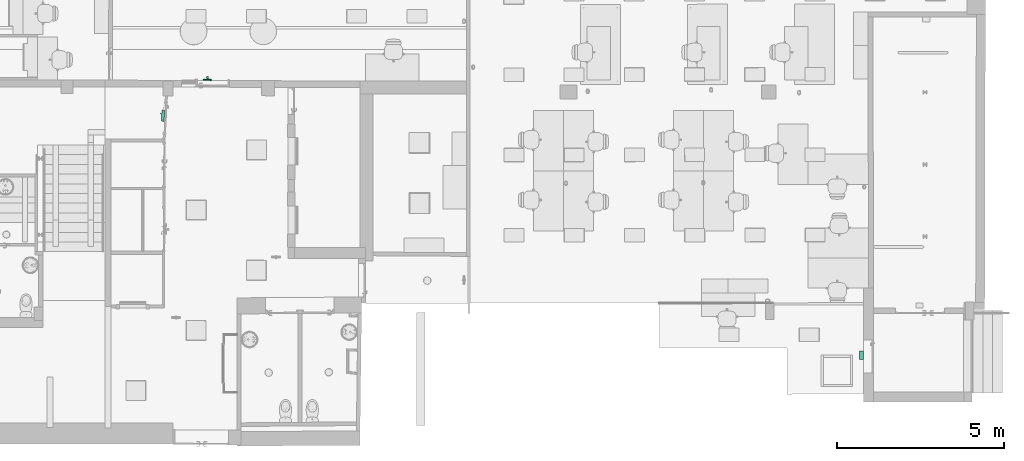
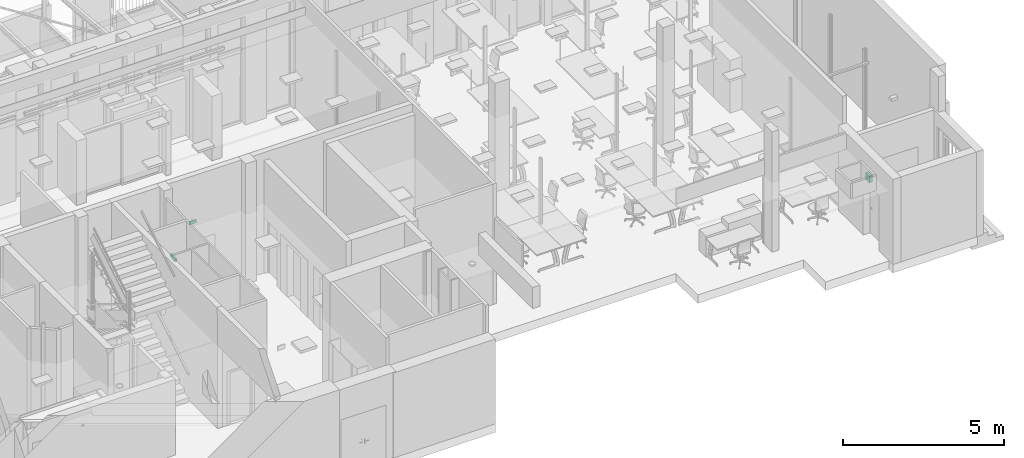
# One storey, part 81 of 128: 3 flow terminals.
"""IFC2X3 building model written with IfcOpenShell, lengths in metres."""

from ifc_helpers import new_model, entity, si_unit, converted_unit, derived_unit, direction, frame, origin, place, context, subcontext, project, spatial, face_set, surface_model, source, transform, mapped, material, type_object, type_shapes, element, save


model = new_model("IFC2X3")

# Units and contexts
model_context = context("Model", 3, precision=1e-05, world=origin(), true_north=direction((6.123031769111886e-17, 1.0)))
body_context = subcontext(model_context, "Body", "Model", "MODEL_VIEW")
ifc_project = project(units=[si_unit("LENGTHUNIT", "METRE"), si_unit("AREAUNIT", "SQUARE_METRE"), converted_unit("PLANEANGLEUNIT", "DEGREE", entity("IfcPlaneAngleMeasure", 0.017453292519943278), si_unit("PLANEANGLEUNIT", "RADIAN"), dimensions=[0, 0, 0, 0, 0, 0, 0]), derived_unit("THERMALTRANSMITTANCEUNIT", [(si_unit("MASSUNIT", "GRAM", prefix="KILO"), 1), (si_unit("THERMODYNAMICTEMPERATUREUNIT", "KELVIN"), -1), (si_unit("TIMEUNIT", "SECOND"), -3)])], contexts=[model_context])

# Site, building, storey
site_placement = place(None, origin())
site = spatial("IfcSite", under=ifc_project, at=site_placement, Name="Default", CompositionType="ELEMENT")
building_placement = place(site_placement, origin())
building = spatial("IfcBuilding", under=site, at=building_placement, CompositionType="ELEMENT")
storey_placement = place(building_placement, origin())
storey = spatial("IfcBuildingStorey", under=building, at=storey_placement, Name="00_RDC CAF", CompositionType="ELEMENT", Elevation=2.4982504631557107e-13)

# Flow terminals
ifc_material = material(Name="ARC - Eq Elec - Blanc")
light_fixture_type_1 = type_object("IfcLightFixtureType", Name="Eq_Elec_Eclairage_secours_BAES:Eq_Elec_Eclairage secours BAES_240x40x120mm", PredefinedType="NOTDEFINED", material=ifc_material)
shared_shape_1 = source(origin(), body_context, "Body", "SurfaceModel", [
    surface_model("IfcFaceBasedSurfaceModel", [(0.013932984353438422, 0.05999999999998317, 0.09396213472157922), (0.0123406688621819, 0.05999999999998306, 0.0857472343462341), (0.008130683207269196, 0.05999999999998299, 0.07955891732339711), (0.002183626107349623, 0.05999999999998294, 0.07496291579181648), (-0.004595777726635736, 0.059999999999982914, 0.07133195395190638), (-0.011375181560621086, 0.05999999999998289, 0.06795431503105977), (-0.01732223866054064, 0.05999999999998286, 0.06416653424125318), (-0.021532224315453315, 0.059999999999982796, 0.0593292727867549), (-0.023124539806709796, 0.05999999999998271, 0.052754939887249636), (-0.022243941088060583, 0.05999999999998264, 0.04756785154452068), (-0.019614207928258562, 0.05999999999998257, 0.04328548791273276), (-0.015199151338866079, 0.05999999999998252, 0.040402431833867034), (-0.008962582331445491, 0.059999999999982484, 0.039340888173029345), (-0.002496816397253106, 0.05999999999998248, 0.04029386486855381), (0.0024007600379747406, 0.0599999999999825, 0.04242901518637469), (0.005814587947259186, 0.05999999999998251, 0.04456416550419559), (0.008046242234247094, 0.05999999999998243, 0.03870154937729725), (0.0056818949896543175, 0.05999999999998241, 0.03700066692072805), (0.0016166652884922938, 0.059999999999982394, 0.035094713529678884), (-0.0032205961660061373, 0.059999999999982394, 0.033707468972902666), (-0.008287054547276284, 0.0599999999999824, 0.03316463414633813), (-0.017430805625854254, 0.05999999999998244, 0.03451568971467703), (-0.024584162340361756, 0.05999999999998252, 0.03842410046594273), (-0.02920428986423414, 0.05999999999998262, 0.044648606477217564), (-0.030844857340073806, 0.05999999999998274, 0.05292382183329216), (-0.029252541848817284, 0.05999999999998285, 0.06123522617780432), (-0.025042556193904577, 0.05999999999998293, 0.06743560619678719), (-0.019107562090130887, 0.05999999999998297, 0.07205573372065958), (-0.01231609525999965, 0.059999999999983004, 0.07572288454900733), (-0.005524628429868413, 0.059999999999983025, 0.07908846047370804), (0.00041036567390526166, 0.05999999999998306, 0.08284005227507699), (0.004620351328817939, 0.059999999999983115, 0.08765318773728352), (0.00621266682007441, 0.0599999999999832, 0.09420339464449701), (0.004921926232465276, 0.059999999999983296, 0.10105517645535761), (0.0013150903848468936, 0.05999999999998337, 0.10612163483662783), (-0.0041976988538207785, 0.05999999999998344, 0.10927007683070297), (-0.011230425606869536, 0.059999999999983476, 0.11036780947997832), (-0.01948151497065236, 0.05999999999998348, 0.10914944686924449), (-0.025561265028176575, 0.05999999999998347, 0.10650765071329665), (-0.029698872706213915, 0.05999999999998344, 0.10386585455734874), (-0.0339329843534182, 0.05999999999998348, 0.10585624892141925), (-0.033619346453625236, 0.05999999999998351, 0.10796727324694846), (-0.032618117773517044, 0.059999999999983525, 0.10961990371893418), (-0.03009695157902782, 0.05999999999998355, 0.11156204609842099), (-0.02558539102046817, 0.059999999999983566, 0.11382988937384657), (-0.019481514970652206, 0.05999999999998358, 0.11574790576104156), (-0.012171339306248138, 0.05999999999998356, 0.11654406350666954), (-0.0017006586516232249, 0.05999999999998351, 0.11499999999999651), (0.006586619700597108, 0.05999999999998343, 0.11053669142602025), (0.012002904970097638, 0.05999999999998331, 0.10343158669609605), (0.023932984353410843, -0.014873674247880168, 0.039999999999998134), (0.022340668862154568, -0.006658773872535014, 0.039999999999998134), (0.01813068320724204, -0.000470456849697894, 0.039999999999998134), (0.012183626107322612, 0.004125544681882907, 0.039999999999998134), (0.0054042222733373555, 0.007756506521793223, 0.039999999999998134), (-0.0013751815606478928, 0.011134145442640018, 0.039999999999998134), (-0.007322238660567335, 0.01492192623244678, 0.039999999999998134), (-0.01153222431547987, 0.019759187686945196, 0.039999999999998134), (-0.013124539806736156, 0.0263335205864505, 0.039999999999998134), (-0.012243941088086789, 0.03152060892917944, 0.039999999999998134), (-0.009614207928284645, 0.035802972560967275, 0.039999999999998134), (-0.005199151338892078, 0.03868602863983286, 0.039999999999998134), (0.0010374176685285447, 0.03974757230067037, 0.039999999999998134), (0.007503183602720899, 0.03879459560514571, 0.039999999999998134), (0.012400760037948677, 0.036659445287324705, 0.039999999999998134), (0.015814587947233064, 0.03452429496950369, 0.039999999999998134), (0.018046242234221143, 0.04038691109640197, 0.039999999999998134), (0.015681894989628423, 0.04208779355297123, 0.039999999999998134), (0.011616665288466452, 0.04399374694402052, 0.039999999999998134), (0.006779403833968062, 0.04538099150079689, 0.039999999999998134), (0.0017129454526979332, 0.04592382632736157, 0.039999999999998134), (-0.00743080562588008, 0.04457277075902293, 0.039999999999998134), (-0.014584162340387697, 0.04066436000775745, 0.039999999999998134), (-0.019204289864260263, 0.03443985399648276, 0.039999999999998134), (-0.020844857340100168, 0.026164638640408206, 0.039999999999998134), (-0.019252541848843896, 0.017853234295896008, 0.039999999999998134), (-0.015042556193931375, 0.011652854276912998, 0.039999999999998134), (-0.009107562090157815, 0.007032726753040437, 0.039999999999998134), (-0.002316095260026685, 0.0033655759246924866, 0.039999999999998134), (0.00447537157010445, 0.0, 0.039999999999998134), (0.010410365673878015, -0.0037515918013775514, 0.039999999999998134), (0.014620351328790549, -0.0085647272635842, 0.039999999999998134), (0.016212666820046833, -0.015114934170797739, 0.039999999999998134), (0.014921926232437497, -0.021966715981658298, 0.039999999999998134), (0.011315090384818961, -0.02703317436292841, 0.039999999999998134), (0.005802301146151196, -0.030181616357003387, 0.039999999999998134), (-0.0012304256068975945, -0.03127934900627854, 0.039999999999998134), (-0.009481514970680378, -0.030060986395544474, 0.039999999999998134), (-0.015561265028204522, -0.027419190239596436, 0.039999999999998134), (-0.019698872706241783, -0.02477739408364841, 0.039999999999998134), (-0.023932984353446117, -0.02676778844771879, 0.039999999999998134), (-0.02361934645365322, -0.028878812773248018, 0.039999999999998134), (-0.022618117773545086, -0.030531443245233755, 0.039999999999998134), (-0.02009695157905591, -0.032473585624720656, 0.039999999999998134), (-0.015585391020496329, -0.034741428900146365, 0.039999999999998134), (-0.009481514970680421, -0.03665944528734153, 0.039999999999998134), (-0.0021713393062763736, -0.03745560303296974, 0.039999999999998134), (0.008299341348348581, -0.035911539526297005, 0.039999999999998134), (0.01658661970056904, -0.03144823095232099, 0.039999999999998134), (0.02200290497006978, -0.024343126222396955, 0.039999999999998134), (0.12000000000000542, 0.05999999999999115, 0.039999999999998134), (0.12000000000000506, -0.06000000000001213, 0.039999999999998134), (-0.11999999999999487, -0.06000000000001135, 0.039999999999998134), (-0.1199999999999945, 0.05999999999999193, 0.039999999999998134), (0.12000000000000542, 0.05999999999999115, 0.0), (0.12000000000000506, -0.06000000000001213, 0.0), (-0.11999999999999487, -0.06000000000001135, 0.0), (-0.1199999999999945, 0.05999999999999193, 0.0)], [face_set([[[0, 1, 2, 3, 4, 5, 6, 7, 8, 9, 10, 11, 12, 13, 14, 15, 16, 17, 18, 19, 20, 21, 22, 23, 24, 25, 26, 27, 28, 29, 30, 31, 32, 33, 34, 35, 36, 37, 38, 39, 40, 41, 42, 43, 44, 45, 46, 47, 48, 49]]]), face_set([[[50, 51, 52, 53, 54, 55, 56, 57, 58, 59, 60, 61, 62, 63, 64, 65, 66, 67, 68, 69, 70, 71, 72, 73, 74, 75, 76, 77, 78, 79, 80, 81, 82, 83, 84, 85, 86, 87, 88, 89, 90, 91, 92, 93, 94, 95, 96, 97, 98, 99]]]), face_set([[[100, 101, 102, 103]], [[104, 105, 106, 107]], [[103, 100, 104, 107]], [[102, 103, 107, 106]], [[101, 102, 106, 105]], [[100, 101, 105, 104]]])]),
])
type_shapes(light_fixture_type_1, [shared_shape_1])
flow_terminal_1_placement = place(storey_placement, frame((25.92598061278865, 136.87187824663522, 2.65100030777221), z_axis=(0.003477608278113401, 0.9999939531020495, 0.0), x_axis=(-0.9999939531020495, 0.003477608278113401, 0.0)))
element("IfcFlowTerminal", 1, at=flow_terminal_1_placement, inside=storey, type_object=light_fixture_type_1, material=ifc_material, Name="Eq_Elec_Eclairage_secours_BAES:Eq_Elec_Eclairage secours BAES_240x40x120mm", ObjectType="Eq_Elec_Eclairage_secours_BAES:Eq_Elec_Eclairage secours BAES_240x40x120mm", context=body_context, shape_type="MappedRepresentation", body=[
    mapped(shared_shape_1, transform((0.0, 0.0, 0.0), scale=1.0)),
])
light_fixture_type_2 = type_object("IfcLightFixtureType", Name="Eq_Elec_Eclairage_secours_BAES:Eq_Elec_Eclairage secours BAES_340x80x100mm", PredefinedType="NOTDEFINED", material=ifc_material)
shared_shape_2 = source(origin(), body_context, "Body", "SurfaceModel", [
    surface_model("IfcFaceBasedSurfaceModel", [(-0.03606701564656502, 0.049999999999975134, 0.09396213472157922), (-0.037659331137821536, 0.04999999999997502, 0.0857472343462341), (-0.04186931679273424, 0.04999999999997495, 0.07955891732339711), (-0.047816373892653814, 0.049999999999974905, 0.07496291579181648), (-0.05459577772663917, 0.04999999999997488, 0.07133195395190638), (-0.06137518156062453, 0.04999999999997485, 0.06795431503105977), (-0.06732223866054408, 0.04999999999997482, 0.06416653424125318), (-0.07153222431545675, 0.04999999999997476, 0.0593292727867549), (-0.07312453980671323, 0.049999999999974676, 0.052754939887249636), (-0.07224394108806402, 0.0499999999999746, 0.04756785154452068), (-0.069614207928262, 0.04999999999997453, 0.04328548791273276), (-0.06519915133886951, 0.04999999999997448, 0.040402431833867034), (-0.05896258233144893, 0.04999999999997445, 0.039340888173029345), (-0.05249681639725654, 0.04999999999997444, 0.04029386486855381), (-0.0475992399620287, 0.049999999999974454, 0.04242901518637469), (-0.044185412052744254, 0.049999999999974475, 0.04456416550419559), (-0.04195375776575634, 0.049999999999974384, 0.03870154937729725), (-0.04431810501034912, 0.04999999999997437, 0.03700066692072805), (-0.04838333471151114, 0.04999999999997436, 0.035094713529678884), (-0.053220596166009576, 0.04999999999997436, 0.033707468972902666), (-0.05828705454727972, 0.049999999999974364, 0.03316463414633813), (-0.0674308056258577, 0.049999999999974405, 0.03451568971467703), (-0.07458416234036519, 0.04999999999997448, 0.03842410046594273), (-0.07920428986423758, 0.04999999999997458, 0.044648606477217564), (-0.08084485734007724, 0.049999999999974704, 0.05292382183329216), (-0.07925254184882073, 0.04999999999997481, 0.06123522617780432), (-0.07504255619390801, 0.049999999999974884, 0.06743560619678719), (-0.06910756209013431, 0.049999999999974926, 0.07205573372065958), (-0.06231609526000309, 0.04999999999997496, 0.07572288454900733), (-0.05552462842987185, 0.04999999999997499, 0.07908846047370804), (-0.04958963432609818, 0.04999999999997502, 0.08284005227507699), (-0.0453796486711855, 0.04999999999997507, 0.08765318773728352), (-0.04378733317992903, 0.049999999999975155, 0.09420339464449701), (-0.04507807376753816, 0.04999999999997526, 0.10105517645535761), (-0.04868490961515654, 0.049999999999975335, 0.10612163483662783), (-0.054197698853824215, 0.049999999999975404, 0.10927007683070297), (-0.061230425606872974, 0.04999999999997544, 0.11036780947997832), (-0.06948151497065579, 0.049999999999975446, 0.10914944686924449), (-0.07556126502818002, 0.049999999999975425, 0.10650765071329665), (-0.07969887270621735, 0.049999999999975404, 0.10386585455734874), (-0.08393298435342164, 0.049999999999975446, 0.10585624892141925), (-0.08361934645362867, 0.04999999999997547, 0.10796727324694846), (-0.08261811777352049, 0.04999999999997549, 0.10961990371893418), (-0.08009695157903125, 0.049999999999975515, 0.11156204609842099), (-0.07558539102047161, 0.04999999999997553, 0.11382988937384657), (-0.06948151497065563, 0.049999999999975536, 0.11574790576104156), (-0.06217133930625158, 0.04999999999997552, 0.11654406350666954), (-0.051700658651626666, 0.04999999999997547, 0.11499999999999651), (-0.04341338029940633, 0.049999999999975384, 0.11053669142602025), (-0.0379970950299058, 0.049999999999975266, 0.10343158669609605), (0.023932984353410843, -0.014873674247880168, 0.07999999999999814), (0.022340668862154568, -0.006658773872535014, 0.07999999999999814), (0.01813068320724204, -0.000470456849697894, 0.07999999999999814), (0.012183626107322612, 0.004125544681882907, 0.07999999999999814), (0.0054042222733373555, 0.007756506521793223, 0.07999999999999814), (-0.0013751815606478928, 0.011134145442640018, 0.07999999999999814), (-0.007322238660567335, 0.01492192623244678, 0.07999999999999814), (-0.01153222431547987, 0.019759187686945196, 0.07999999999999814), (-0.013124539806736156, 0.0263335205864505, 0.07999999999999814), (-0.012243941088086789, 0.03152060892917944, 0.07999999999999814), (-0.009614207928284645, 0.035802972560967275, 0.07999999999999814), (-0.005199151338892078, 0.03868602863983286, 0.07999999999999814), (0.0010374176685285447, 0.03974757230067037, 0.07999999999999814), (0.007503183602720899, 0.03879459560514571, 0.07999999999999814), (0.012400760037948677, 0.036659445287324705, 0.07999999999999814), (0.015814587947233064, 0.03452429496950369, 0.07999999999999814), (0.018046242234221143, 0.04038691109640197, 0.07999999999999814), (0.015681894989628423, 0.04208779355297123, 0.07999999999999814), (0.011616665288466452, 0.04399374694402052, 0.07999999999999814), (0.006779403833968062, 0.04538099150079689, 0.07999999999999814), (0.0017129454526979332, 0.04592382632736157, 0.07999999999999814), (-0.00743080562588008, 0.04457277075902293, 0.07999999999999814), (-0.014584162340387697, 0.04066436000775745, 0.07999999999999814), (-0.019204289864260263, 0.03443985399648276, 0.07999999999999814), (-0.020844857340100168, 0.026164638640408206, 0.07999999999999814), (-0.019252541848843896, 0.017853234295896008, 0.07999999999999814), (-0.015042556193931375, 0.011652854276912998, 0.07999999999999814), (-0.009107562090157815, 0.007032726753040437, 0.07999999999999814), (-0.002316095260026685, 0.0033655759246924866, 0.07999999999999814), (0.00447537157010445, 0.0, 0.07999999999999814), (0.010410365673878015, -0.0037515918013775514, 0.07999999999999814), (0.014620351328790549, -0.0085647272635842, 0.07999999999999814), (0.016212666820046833, -0.015114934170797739, 0.07999999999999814), (0.014921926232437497, -0.021966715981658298, 0.07999999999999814), (0.011315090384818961, -0.02703317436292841, 0.07999999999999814), (0.005802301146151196, -0.030181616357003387, 0.07999999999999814), (-0.0012304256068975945, -0.03127934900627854, 0.07999999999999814), (-0.009481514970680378, -0.030060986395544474, 0.07999999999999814), (-0.015561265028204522, -0.027419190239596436, 0.07999999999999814), (-0.019698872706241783, -0.02477739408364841, 0.07999999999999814), (-0.023932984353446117, -0.02676778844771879, 0.07999999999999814), (-0.02361934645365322, -0.028878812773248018, 0.07999999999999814), (-0.022618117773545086, -0.030531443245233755, 0.07999999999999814), (-0.02009695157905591, -0.032473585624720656, 0.07999999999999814), (-0.015585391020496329, -0.034741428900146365, 0.07999999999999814), (-0.009481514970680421, -0.03665944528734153, 0.07999999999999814), (-0.0021713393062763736, -0.03745560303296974, 0.07999999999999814), (0.008299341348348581, -0.035911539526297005, 0.07999999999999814), (0.01658661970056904, -0.03144823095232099, 0.07999999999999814), (0.02200290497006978, -0.024343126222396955, 0.07999999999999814), (0.17000000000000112, 0.04999999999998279, 0.07999999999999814), (0.1700000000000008, -0.050000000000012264, 0.07999999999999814), (-0.16999999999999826, -0.05000000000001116, 0.07999999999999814), (-0.16999999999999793, 0.04999999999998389, 0.07999999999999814), (0.17000000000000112, 0.04999999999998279, 0.0), (0.1700000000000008, -0.050000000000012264, 0.0), (-0.16999999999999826, -0.05000000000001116, 0.0), (-0.16999999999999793, 0.04999999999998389, 0.0)], [face_set([[[0, 1, 2, 3, 4, 5, 6, 7, 8, 9, 10, 11, 12, 13, 14, 15, 16, 17, 18, 19, 20, 21, 22, 23, 24, 25, 26, 27, 28, 29, 30, 31, 32, 33, 34, 35, 36, 37, 38, 39, 40, 41, 42, 43, 44, 45, 46, 47, 48, 49]]]), face_set([[[50, 51, 52, 53, 54, 55, 56, 57, 58, 59, 60, 61, 62, 63, 64, 65, 66, 67, 68, 69, 70, 71, 72, 73, 74, 75, 76, 77, 78, 79, 80, 81, 82, 83, 84, 85, 86, 87, 88, 89, 90, 91, 92, 93, 94, 95, 96, 97, 98, 99]]]), face_set([[[100, 101, 102, 103]], [[104, 105, 106, 107]], [[103, 100, 104, 107]], [[102, 103, 107, 106]], [[101, 102, 106, 105]], [[100, 101, 105, 104]]])]),
])
type_shapes(light_fixture_type_2, [shared_shape_2])
flow_terminal_2_placement = place(storey_placement, frame((24.65098127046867, 135.8212345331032, 2.4048088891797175), z_axis=(-0.9986295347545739, 0.05233595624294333, 0.0), x_axis=(-0.05233595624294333, -0.9986295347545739, 0.0)))
element("IfcFlowTerminal", 2, at=flow_terminal_2_placement, inside=storey, type_object=light_fixture_type_2, material=ifc_material, Name="Eq_Elec_Eclairage_secours_BAES:Eq_Elec_Eclairage secours BAES_340x80x100mm", ObjectType="Eq_Elec_Eclairage_secours_BAES:Eq_Elec_Eclairage secours BAES_340x80x100mm", context=body_context, shape_type="MappedRepresentation", body=[
    mapped(shared_shape_2, transform((0.0, 0.0, 0.0), scale=1.0)),
])
light_fixture_type_3 = type_object("IfcLightFixtureType", Name="Eq_Elec_Eclairage_secours_BAES:Eq_Elec_Eclairage secours BAES_240x50x120mm", PredefinedType="NOTDEFINED", material=ifc_material)
shared_shape_3 = source(origin(), body_context, "Body", "SurfaceModel", [
    surface_model("IfcFaceBasedSurfaceModel", [(0.00893298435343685, 0.11999999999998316, 0.09396213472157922), (0.007340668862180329, 0.11999999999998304, 0.0857472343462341), (0.0031306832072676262, 0.11999999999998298, 0.07955891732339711), (-0.0028163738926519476, 0.11999999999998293, 0.07496291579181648), (-0.009595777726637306, 0.11999999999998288, 0.07133195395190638), (-0.016375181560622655, 0.11999999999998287, 0.06795431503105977), (-0.02232223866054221, 0.11999999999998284, 0.06416653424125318), (-0.026532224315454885, 0.11999999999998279, 0.0593292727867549), (-0.028124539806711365, 0.11999999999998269, 0.052754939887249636), (-0.027243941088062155, 0.11999999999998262, 0.04756785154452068), (-0.024614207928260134, 0.11999999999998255, 0.04328548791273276), (-0.02019915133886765, 0.1199999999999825, 0.040402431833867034), (-0.01396258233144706, 0.11999999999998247, 0.039340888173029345), (-0.007496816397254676, 0.11999999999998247, 0.04029386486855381), (-0.0025992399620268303, 0.11999999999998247, 0.04242901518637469), (0.0008145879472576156, 0.1199999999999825, 0.04456416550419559), (0.0030462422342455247, 0.1199999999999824, 0.03870154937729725), (0.0006818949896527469, 0.11999999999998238, 0.03700066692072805), (-0.003383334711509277, 0.11999999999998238, 0.035094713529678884), (-0.008220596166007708, 0.11999999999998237, 0.033707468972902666), (-0.013287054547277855, 0.11999999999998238, 0.03316463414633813), (-0.022430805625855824, 0.11999999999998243, 0.03451568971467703), (-0.02958416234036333, 0.1199999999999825, 0.03842410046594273), (-0.03420428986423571, 0.1199999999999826, 0.044648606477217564), (-0.03584485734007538, 0.11999999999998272, 0.05292382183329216), (-0.03425254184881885, 0.11999999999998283, 0.06123522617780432), (-0.03004255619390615, 0.11999999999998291, 0.06743560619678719), (-0.024107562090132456, 0.11999999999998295, 0.07205573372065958), (-0.01731609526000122, 0.11999999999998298, 0.07572288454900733), (-0.010524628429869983, 0.11999999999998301, 0.07908846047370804), (-0.004589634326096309, 0.11999999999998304, 0.08284005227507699), (-0.0003796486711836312, 0.11999999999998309, 0.08765318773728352), (0.0012126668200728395, 0.11999999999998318, 0.09420339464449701), (-7.807376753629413e-05, 0.11999999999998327, 0.10105517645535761), (-0.003684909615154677, 0.11999999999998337, 0.10612163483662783), (-0.009197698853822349, 0.11999999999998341, 0.10927007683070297), (-0.016230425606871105, 0.11999999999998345, 0.11036780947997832), (-0.024481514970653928, 0.11999999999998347, 0.10914944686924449), (-0.030561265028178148, 0.11999999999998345, 0.10650765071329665), (-0.03469887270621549, 0.11999999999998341, 0.10386585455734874), (-0.03893298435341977, 0.11999999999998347, 0.10585624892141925), (-0.03861934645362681, 0.11999999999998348, 0.10796727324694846), (-0.03761811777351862, 0.11999999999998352, 0.10961990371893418), (-0.03509695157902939, 0.11999999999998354, 0.11156204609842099), (-0.03058539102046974, 0.11999999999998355, 0.11382988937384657), (-0.024481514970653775, 0.11999999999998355, 0.11574790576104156), (-0.017171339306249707, 0.11999999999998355, 0.11654406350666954), (-0.006700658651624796, 0.1199999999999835, 0.11499999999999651), (0.0015866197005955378, 0.1199999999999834, 0.11053669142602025), (0.007002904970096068, 0.1199999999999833, 0.10343158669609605), (0.023932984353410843, -0.014873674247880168, 0.12058260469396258), (0.022340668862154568, -0.006658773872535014, 0.12058260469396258), (0.01813068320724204, -0.000470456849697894, 0.12058260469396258), (0.012183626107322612, 0.004125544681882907, 0.12058260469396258), (0.0054042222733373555, 0.007756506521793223, 0.12058260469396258), (-0.0013751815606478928, 0.011134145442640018, 0.12058260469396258), (-0.007322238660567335, 0.01492192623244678, 0.12058260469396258), (-0.01153222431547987, 0.019759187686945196, 0.12058260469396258), (-0.013124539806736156, 0.0263335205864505, 0.12058260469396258), (-0.012243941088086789, 0.03152060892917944, 0.12058260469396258), (-0.009614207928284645, 0.035802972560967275, 0.12058260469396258), (-0.005199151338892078, 0.03868602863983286, 0.12058260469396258), (0.0010374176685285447, 0.03974757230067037, 0.12058260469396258), (0.007503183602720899, 0.03879459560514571, 0.12058260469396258), (0.012400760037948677, 0.036659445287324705, 0.12058260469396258), (0.015814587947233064, 0.03452429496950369, 0.12058260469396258), (0.018046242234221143, 0.04038691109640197, 0.12058260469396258), (0.015681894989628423, 0.04208779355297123, 0.12058260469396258), (0.011616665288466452, 0.04399374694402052, 0.12058260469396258), (0.006779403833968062, 0.04538099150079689, 0.12058260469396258), (0.0017129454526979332, 0.04592382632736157, 0.12058260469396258), (-0.00743080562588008, 0.04457277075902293, 0.12058260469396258), (-0.014584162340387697, 0.04066436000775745, 0.12058260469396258), (-0.019204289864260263, 0.03443985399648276, 0.12058260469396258), (-0.020844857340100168, 0.026164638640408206, 0.12058260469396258), (-0.019252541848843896, 0.017853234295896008, 0.12058260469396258), (-0.015042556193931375, 0.011652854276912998, 0.12058260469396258), (-0.009107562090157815, 0.007032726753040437, 0.12058260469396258), (-0.002316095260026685, 0.0033655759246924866, 0.12058260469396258), (0.00447537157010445, 0.0, 0.12058260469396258), (0.010410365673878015, -0.0037515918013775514, 0.12058260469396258), (0.014620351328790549, -0.0085647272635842, 0.12058260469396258), (0.016212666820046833, -0.015114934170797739, 0.12058260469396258), (0.014921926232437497, -0.021966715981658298, 0.12058260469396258), (0.011315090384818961, -0.02703317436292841, 0.12058260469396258), (0.005802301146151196, -0.030181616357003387, 0.12058260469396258), (-0.0012304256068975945, -0.03127934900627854, 0.12058260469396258), (-0.009481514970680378, -0.030060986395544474, 0.12058260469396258), (-0.015561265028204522, -0.027419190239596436, 0.12058260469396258), (-0.019698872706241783, -0.02477739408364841, 0.12058260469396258), (-0.023932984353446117, -0.02676778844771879, 0.12058260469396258), (-0.02361934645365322, -0.028878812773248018, 0.12058260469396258), (-0.022618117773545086, -0.030531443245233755, 0.12058260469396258), (-0.02009695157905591, -0.032473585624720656, 0.12058260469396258), (-0.015585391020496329, -0.034741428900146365, 0.12058260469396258), (-0.009481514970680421, -0.03665944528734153, 0.12058260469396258), (-0.0021713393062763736, -0.03745560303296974, 0.12058260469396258), (0.008299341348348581, -0.035911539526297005, 0.12058260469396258), (0.01658661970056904, -0.03144823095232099, 0.12058260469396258), (0.02200290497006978, -0.024343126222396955, 0.12058260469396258), (0.12500000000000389, 0.1199999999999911, 0.12058260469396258), (0.1250000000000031, -0.12000000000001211, 0.12058260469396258), (-0.12499999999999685, -0.12000000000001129, 0.12058260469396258), (-0.12499999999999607, 0.1199999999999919, 0.12058260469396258), (0.12500000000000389, 0.1199999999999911, 0.0), (0.1250000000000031, -0.12000000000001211, 0.0), (-0.12499999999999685, -0.12000000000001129, 0.0), (-0.12499999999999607, 0.1199999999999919, 0.0)], [face_set([[[0, 1, 2, 3, 4, 5, 6, 7, 8, 9, 10, 11, 12, 13, 14, 15, 16, 17, 18, 19, 20, 21, 22, 23, 24, 25, 26, 27, 28, 29, 30, 31, 32, 33, 34, 35, 36, 37, 38, 39, 40, 41, 42, 43, 44, 45, 46, 47, 48, 49]]]), face_set([[[50, 51, 52, 53, 54, 55, 56, 57, 58, 59, 60, 61, 62, 63, 64, 65, 66, 67, 68, 69, 70, 71, 72, 73, 74, 75, 76, 77, 78, 79, 80, 81, 82, 83, 84, 85, 86, 87, 88, 89, 90, 91, 92, 93, 94, 95, 96, 97, 98, 99]]]), face_set([[[100, 101, 102, 103]], [[104, 105, 106, 107]], [[103, 100, 104, 107]], [[102, 103, 107, 106]], [[101, 102, 106, 105]], [[100, 101, 105, 104]]])]),
])
type_shapes(light_fixture_type_3, [shared_shape_3])
flow_terminal_3_placement = place(storey_placement, frame((45.544054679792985, 128.65648300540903, 2.5000000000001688), z_axis=(-1.0, 0.0, 0.0), x_axis=(0.0, -1.0, 0.0)))
element("IfcFlowTerminal", 3, at=flow_terminal_3_placement, inside=storey, type_object=light_fixture_type_3, material=ifc_material, Name="Eq_Elec_Eclairage_secours_BAES:Eq_Elec_Eclairage secours BAES_240x50x120mm", ObjectType="Eq_Elec_Eclairage_secours_BAES:Eq_Elec_Eclairage secours BAES_240x50x120mm", context=body_context, shape_type="MappedRepresentation", body=[
    mapped(shared_shape_3, transform((0.0, 0.0, 0.0), scale=1.0)),
])

save(model, "model.ifc")
